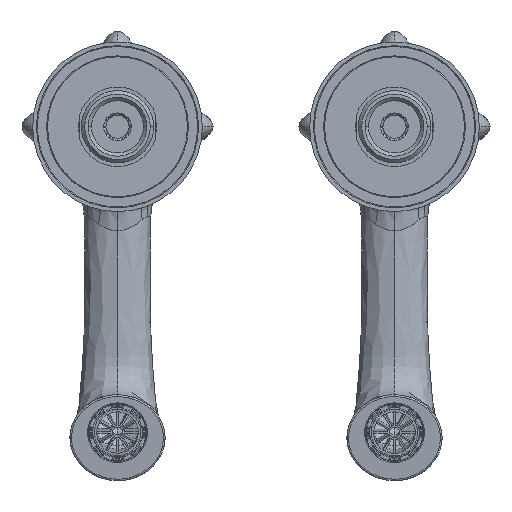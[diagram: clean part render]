
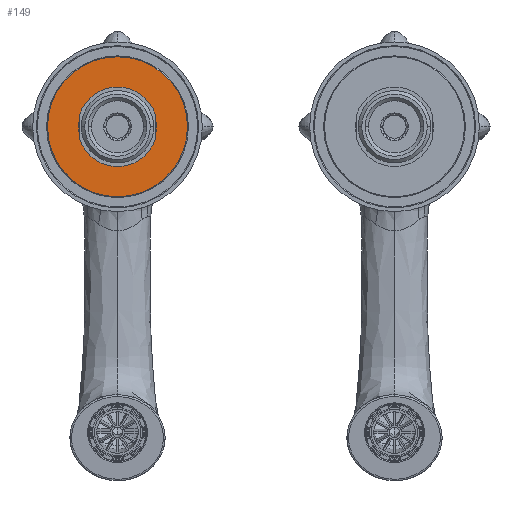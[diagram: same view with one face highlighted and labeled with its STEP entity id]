
A CAD part, front view. The second image highlights one B-rep face of the part: STEP entity #149.
In plain terms, the highlighted planar face has unit normal (0, -1, 0).
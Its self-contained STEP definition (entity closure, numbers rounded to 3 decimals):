
#149 = ADVANCED_FACE('',(#150,#170),#190,.F.);
#150 = FACE_BOUND('',#151,.F.);
#151 = EDGE_LOOP('',(#152,#163));
#152 = ORIENTED_EDGE('',*,*,#153,.F.);
#153 = EDGE_CURVE('',#154,#156,#158,.T.);
#154 = VERTEX_POINT('',#155);
#155 = CARTESIAN_POINT('',(0.,0.,-20.22));
#156 = VERTEX_POINT('',#157);
#157 = CARTESIAN_POINT('',(0.,0.,20.22));
#158 = CIRCLE('',#159,20.22);
#159 = AXIS2_PLACEMENT_3D('',#160,#161,#162);
#160 = CARTESIAN_POINT('',(0.,0.,0.));
#161 = DIRECTION('',(0.,-1.,0.));
#162 = DIRECTION('',(0.,0.,-1.));
#163 = ORIENTED_EDGE('',*,*,#164,.F.);
#164 = EDGE_CURVE('',#156,#154,#165,.T.);
#165 = CIRCLE('',#166,20.22);
#166 = AXIS2_PLACEMENT_3D('',#167,#168,#169);
#167 = CARTESIAN_POINT('',(0.,0.,0.));
#168 = DIRECTION('',(0.,-1.,0.));
#169 = DIRECTION('',(0.,0.,1.));
#170 = FACE_BOUND('',#171,.F.);
#171 = EDGE_LOOP('',(#172,#183));
#172 = ORIENTED_EDGE('',*,*,#173,.F.);
#173 = EDGE_CURVE('',#174,#176,#178,.T.);
#174 = VERTEX_POINT('',#175);
#175 = CARTESIAN_POINT('',(0.,0.,11.25));
#176 = VERTEX_POINT('',#177);
#177 = CARTESIAN_POINT('',(0.,0.,-11.25));
#178 = CIRCLE('',#179,11.25);
#179 = AXIS2_PLACEMENT_3D('',#180,#181,#182);
#180 = CARTESIAN_POINT('',(0.,0.,0.));
#181 = DIRECTION('',(0.,1.,0.));
#182 = DIRECTION('',(0.,-0.,1.));
#183 = ORIENTED_EDGE('',*,*,#184,.F.);
#184 = EDGE_CURVE('',#176,#174,#185,.T.);
#185 = CIRCLE('',#186,11.25);
#186 = AXIS2_PLACEMENT_3D('',#187,#188,#189);
#187 = CARTESIAN_POINT('',(0.,0.,
    0.));
#188 = DIRECTION('',(0.,1.,0.));
#189 = DIRECTION('',(0.,0.,-1.));
#190 = PLANE('',#191);
#191 = AXIS2_PLACEMENT_3D('',#192,#193,#194);
#192 = CARTESIAN_POINT('',(0.,0.,0.));
#193 = DIRECTION('',(0.,1.,0.));
#194 = DIRECTION('',(0.,-0.,1.));
